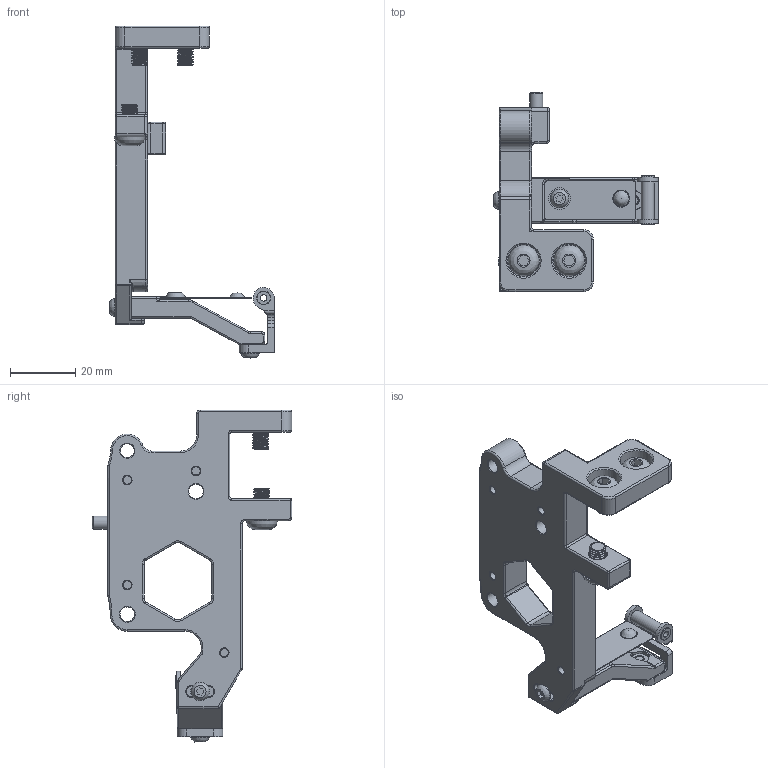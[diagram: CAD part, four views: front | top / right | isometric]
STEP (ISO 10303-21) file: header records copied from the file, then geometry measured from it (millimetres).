
FILE_DESCRIPTION(/* description */ (''),/* implementation_level */ '2;1');
FILE_NAME(/* name */ 'Dock.step',/* time_stamp */ '2024-08-25T13:31:56+07:00',/* author */ (''),/* organization */ (''),/* preprocessor_version */ 'ST-DEVELOPER v20',/* originating_system */ 'Autodesk Translation Framework v13.14.0.145',/* authorisation */ '');
FILE_SCHEMA (('AUTOMOTIVE_DESIGN { 1 0 10303 214 3 1 1 }'));
Products named in the file (23): Dock; Dock (1) (3); Hardware (1); 8 x 5mm magnet; 6 x 3mm magnet; m4 x 15mm dowel pin; 8 x 5mm magnet (1); 8 x 5mm magnet (2); m5 x 10mm bhcs; m5 x 8mm bhcs; m3 x 6mm bhcs; m3 hex nut (3); m3 hex nut; m3 washer; ptfe tube 15mm; m3 x 10mm bhcs; m3 brass insert; AA battery terminal; m5 x 8mm bhcs (1); m3 x 6mm bhcs (1); Dock Body; Nozzle Blocker Mount; BBL Nozzle Wiper
Assembly tree (22 placements, depth 4):
  Dock
    Dock (1) (3)
      Hardware (1)
        8 x 5mm magnet
        6 x 3mm magnet
        m4 x 15mm dowel pin
        8 x 5mm magnet (1)
        8 x 5mm magnet (2)
        m5 x 10mm bhcs
        m5 x 8mm bhcs
        m3 x 6mm bhcs
        m3 hex nut (3)
        m3 hex nut
        m3 washer
        ptfe tube 15mm
        m3 x 10mm bhcs
        m3 brass insert
        AA battery terminal
        m5 x 8mm bhcs (1)
        m3 x 6mm bhcs (1)
      Dock Body
      Nozzle Blocker Mount
      BBL Nozzle Wiper
Bounding box: 50.5 x 61.26 x 101.96 mm (x, y, z)
Volume: 29375.9 mm3; surface area: 19258 mm2
Topology: 20 solids, 20 shells, 1080 faces, 2730 edges, 1707 vertices
Faces by surface type: cylinder 481, plane 212, bspline 193, cone 96, torus 90, sphere 8
Full cylindrical faces by diameter (mm): 2 x1, 2.356 x44, 2.376 x10, 2.5 x14, 2.927 x41, 3 x2, 3.4 x5, 3.505 x1, 3.564 x1, 3.99 x10, 4 x2, 4.2 x4, 4.5 x2, 4.7 x1, 4.751 x1, 4.901 x19, 5.5 x3, 5.7 x3, 6 x1, 6.2 x1, 6.7 x1, 8 x3, 8.2 x2, 10 x2
Entity records: 67650 total; most frequent: CARTESIAN_POINT 42520, ORIENTED_EDGE 5438, DIRECTION 4806, EDGE_CURVE 2719, AXIS2_PLACEMENT_3D 1908, VERTEX_POINT 1707, EDGE_LOOP 1154, FACE_OUTER_BOUND 1080
